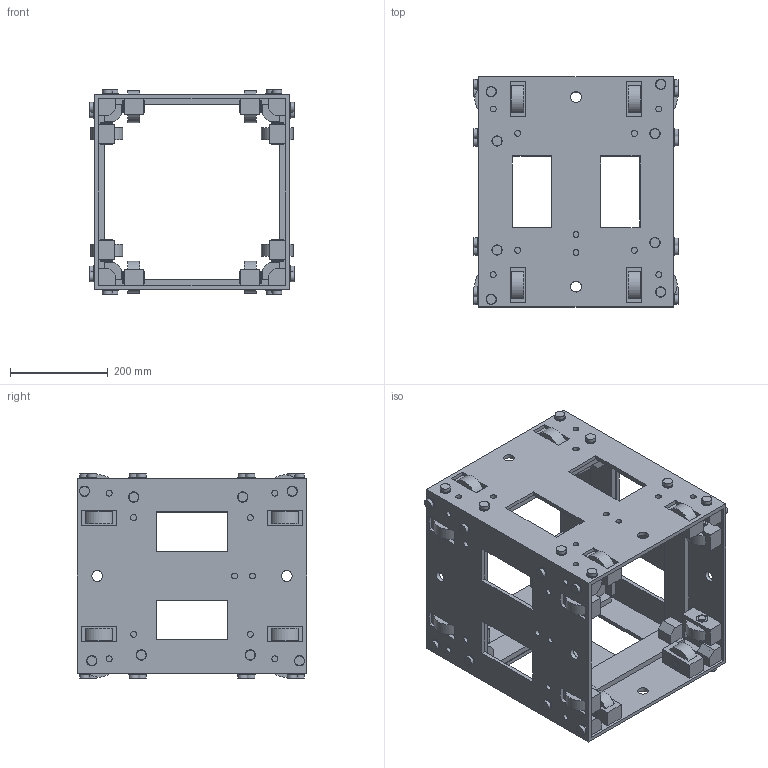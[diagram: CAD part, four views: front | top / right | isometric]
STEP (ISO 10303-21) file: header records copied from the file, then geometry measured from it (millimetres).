
FILE_DESCRIPTION(/* description */ (''),/* implementation_level */ '2;1');
FILE_NAME(/* name */ 'M:\Symbolen_NIEUW\STP\Sleeveblocks\111800005.stp',/* time_stamp */ '2015-06-01T11:47:00+02:00',/* author */ ('Stephan'),/* organization */ (''),/* preprocessor_version */ 'ST-DEVELOPER v15.6',/* originating_system */ 'Autodesk Inventor 2015',/* authorisation */ '');
FILE_SCHEMA (('AUTOMOTIVE_DESIGN { 1 0 10303 214 3 1 1 }'));
Length unit declared in the file: millimetre
Products named in the file (1): 160024343
Bounding box: 418 x 470 x 418 mm (x, y, z)
Volume: 9735572.9 mm3; surface area: 1703066.5 mm2
Topology: 1 solids, 33 shells, 1018 faces, 2248 edges, 1488 vertices
Faces by surface type: plane 666, cylinder 320, cone 32
Full cylindrical faces by diameter (mm): 10.11 x32, 12.1 x36, 12.5 x4, 16 x48, 19.8 x32, 21.1 x32, 22 x8, 23.691 x32
Entity records: 27470 total; most frequent: DIRECTION 4606, CARTESIAN_POINT 4371, ORIENTED_EDGE 3856, EDGE_CURVE 1928, AXIS2_PLACEMENT_3D 1659, EDGE_LOOP 1548, VERTEX_POINT 1424, LINE 1288
